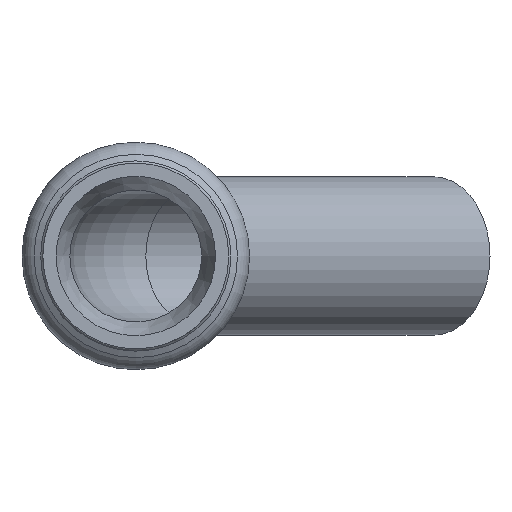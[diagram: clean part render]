
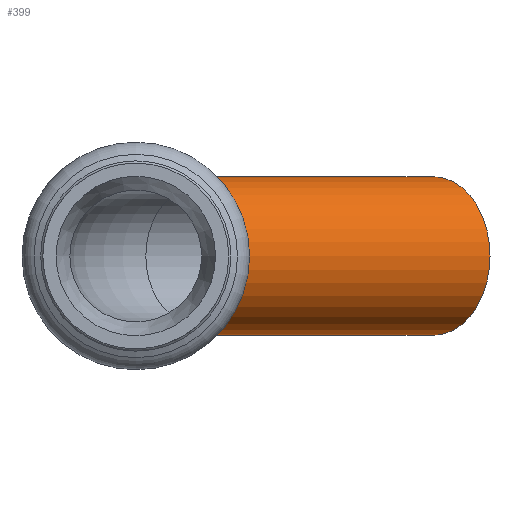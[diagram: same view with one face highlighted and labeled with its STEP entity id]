
A CAD part, left-side view. The second image highlights one B-rep face of the part: STEP entity #399.
In plain terms, the highlighted cylindrical face has radius 9 mm (diameter 18 mm), a full revolution.
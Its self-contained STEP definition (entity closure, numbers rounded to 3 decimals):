
#372=CARTESIAN_POINT('',(15.556,-6.444,0.0));
#373=DIRECTION('',(0.707,-0.707,0.0));
#374=DIRECTION('',(0.0,0.0,1.0));
#375=AXIS2_PLACEMENT_3D('',#372,#373,#374);
#376=CYLINDRICAL_SURFACE('',#375,9.);
#377=CARTESIAN_POINT('',(43.054,-33.941,-9.));
#378=VERTEX_POINT('',#377);
#379=CARTESIAN_POINT('',(43.054,-33.941,0.0));
#380=DIRECTION('',(-0.707,0.707,0.0));
#381=DIRECTION('',(0.0,0.0,1.0));
#382=AXIS2_PLACEMENT_3D('',#379,#380,#381);
#383=CIRCLE('',#382,9.);
#384=EDGE_CURVE('',#378,#378,#383,.T.);
#385=ORIENTED_EDGE('',*,*,#384,.T.);
#386=EDGE_LOOP('',(#385));
#387=FACE_OUTER_BOUND('',#386,.T.);
#388=CARTESIAN_POINT('',(15.556,-6.444,-9.));
#389=VERTEX_POINT('',#388);
#390=CARTESIAN_POINT('',(15.556,-6.444,0.0));
#391=DIRECTION('',(-0.707,0.707,0.0));
#392=DIRECTION('',(0.0,0.0,1.0));
#393=AXIS2_PLACEMENT_3D('',#390,#391,#392);
#394=CIRCLE('',#393,9.);
#395=EDGE_CURVE('',#389,#389,#394,.T.);
#396=ORIENTED_EDGE('',*,*,#395,.F.);
#397=EDGE_LOOP('',(#396));
#398=FACE_BOUND('',#397,.T.);
#399=ADVANCED_FACE('',(#387,#398),#376,.T.);
